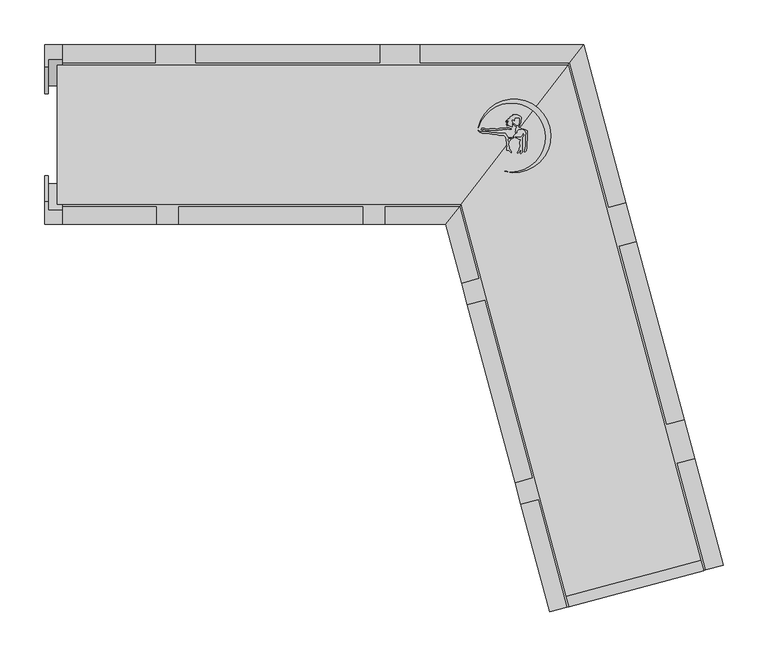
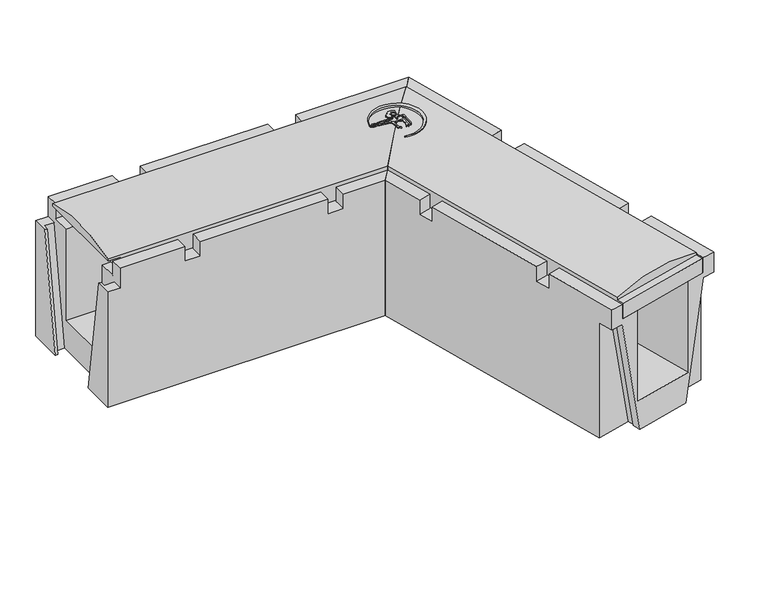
"""IFC4 building model written with IfcOpenShell, lengths in millimetres: cable carrier fitting geometry, Evotray type 1 horizontal bend : Evotray type 1 horizontal bend."""

from ifc_helpers import new_model, si_unit, point, frame, frame_2d, origin, place, context, project, spatial, polyline, circle_curve, ellipse_curve, trimmed, segment, composite_curve, outline, extrude, faceted_brep, source, transform, mapped, element, save
from ifc_brep_helpers import plane_surface, cylinder_surface, advanced_brep


def cable_carrier_fitting_8de855c7(model_context):
    return source(origin(), model_context, "Body", "SolidModel", [
        extrude(outline(composite_curve([segment(polyline([(29.5860143, 7.5339815), (31.0117053, 6.7108584), (30.302774, 6.3015567), (27.7378441, 6.3015567), (25.2783509, 3.8420634), (25.2783509, 2.2583954), (24.2208369, 1.9750354), (23.8894698, 3.2117144), (24.2116912, 4.414261), (24.2116912, 6.6410761), (25.6782318, 8.1076167), (25.2783509, 8.8002309), (24.2116912, 9.4160672), (23.3534193, 9.9115907), (22.3602957, 10.9047143), (22.3602957, 12.1547711), (23.1480899, 11.6999379), (24.2116912, 10.6363367), (25.2783509, 10.0205004), (27.5911155, 10.0205004), (28.2230142, 10.6523991), (28.2230142, 12.2608037), (28.6288712, 12.9637687), (28.8684412, 13.8578561), (28.8684412, 17.953291), (28.2230142, 18.598718), (24.2116912, 18.9496633), (23.463527, 18.5177106), (23.0316785, 17.769727), (22.8092851, 16.9397435), (22.5365687, 15.393092), (21.980547, 15.9491137), (21.4148911, 16.5147695), (20.4543562, 16.5147695), (19.9799168, 15.6930164), (19.9799168, 14.868111), (20.381964, 14.1717449), (21.1096586, 13.4440503), (20.7130193, 11.9637721), (20.3755193, 10.7042051), (20.6783268, 8.9868987), (19.8775337, 8.8456973), (18.1470884, 9.3093687), (16.9003791, 9.8907188), (16.1471219, 10.2419684), (14.5476734, 9.9599424), (15.0152318, 10.7697774), (16.6720528, 11.3728109)]), True, "CONTINUOUS"), segment(trimmed(circle_curve(frame_2d((16.1059252, 11.1008716)), 0.6280537), [point((16.6720528, 11.3728109))], [point((15.9503431, 11.7093497))], True, "CARTESIAN"), True, "CONTINUOUS"), segment(polyline([(15.9503431, 11.7093497), (14.003328, 11.7093497), (14.5615061, 12.2675278), (15.4122859, 12.5771863), (16.2307253, 12.875074)]), True, "CONTINUOUS"), segment(trimmed(circle_curve(frame_2d((15.4924004, 12.875074)), 0.7383249), [point((16.2307253, 12.875074))], [point((15.4924004, 13.6133989))], True, "CARTESIAN"), True, "CONTINUOUS"), segment(polyline([(15.4924004, 13.6133989), (13.7846528, 13.6133989), (13.3931312, 14.2915342), (15.2117233, 14.612201), (16.5080613, 15.0840295), (15.8873086, 15.7047821), (13.9240891, 15.7047821), (14.4766716, 16.2573646), (15.5065043, 16.8519388), (16.1812287, 17.5266631), (16.904046, 17.9439819), (17.879058, 18.5069053)]), True, "CONTINUOUS"), segment(trimmed(circle_curve(frame_2d((17.6680726, 18.8723428)), 0.4219708), [point((17.879058, 18.5069053))], [point((17.4570872, 19.2377802))], True, "CARTESIAN"), True, "CONTINUOUS"), segment(polyline([(17.4570872, 19.2377802), (18.0744838, 19.8551768), (19.3771538, 20.3293099), (20.3722104, 20.9038061), (21.503747, 21.1033266), (21.1499212, 22.0754549), (26.1499212, 22.0754549), (27.164095, 21.6025379), (28.28595, 21.3019378), (29.3003961, 20.716247), (30.4090725, 19.6075706), (30.4090725, 17.0415553), (29.9201554, 16.1947259), (29.9201554, 13.46269), (29.4311204, 12.4139512), (29.0243186, 11.7093497), (29.0243186, 9.8605854), (28.2230142, 9.3979521), (27.3897357, 9.2510226)]), True, "CONTINUOUS"), segment(trimmed(circle_curve(frame_2d((28.4426872, 8.9688851)), 1.0900956), [point((27.3897357, 9.2510226))], [point((28.1605497, 7.9159336))], True, "CARTESIAN"), True, "CONTINUOUS"), segment(polyline([(28.1605497, 7.9159336), (29.5860143, 7.5339815)]), True, "CONTINUOUS")], self_intersect=False)), frame((0.0, 0.0, 223.75), z_axis=(0.0, 0.0, 1.0), x_axis=(1.0, 0.0, 0.0)), (0.0, 0.0, 1.0), 22.5),
        extrude(outline(polyline([(34.1427235, 4.6789788), (32.2200795, 5.7890178), (33.4093196, 6.1076737), (34.784175, 5.6072673), (36.9103242, 4.3797345), (37.3219736, 2.8434379), (37.3219736, 0.0702487), (36.9035927, -2.3025073), (36.5774556, -11.6418533), (36.5774556, -14.4967502), (36.0178076, -17.6706715), (34.8587835, -18.8296956), (33.9612949, -18.8296956), (34.6361691, -16.975494), (34.9451247, -15.2233198), (35.459582, -12.3056877), (35.459582, -1.066223), (35.9012166, 1.4384114), (35.3587397, 3.4629626), (34.1427235, 4.6789788)])), frame((0.0, 0.0, 223.75), z_axis=(0.0, 0.0, 1.0), x_axis=(1.0, 0.0, 0.0)), (0.0, 0.0, 1.0), 22.5),
        extrude(outline(composite_curve([segment(polyline([(26.7144746, -2.929042), (28.696676, -2.929042), (30.1649403, -2.6701473), (31.4702224, -1.3648653), (32.6503312, 1.1658863), (33.1312832, -0.1555184), (32.5085755, -1.4909195), (31.837968, -2.929042), (31.837968, -8.8872378), (31.4095889, -11.3166965), (31.4095889, -19.7978385), (29.9609302, -21.2464971), (29.388193, -20.6737599), (30.066913, -18.9313898), (30.3250583, -17.4673747)]), True, "CONTINUOUS"), segment(trimmed(circle_curve(frame_2d((29.9104103, -17.4673747)), 0.414648), [point((30.3250583, -17.4673747))], [point((29.4957623, -17.4673747))], True, "CARTESIAN"), True, "CONTINUOUS"), segment(polyline([(29.4957623, -17.4673747), (28.7300735, -18.2330635), (27.463227, -19.7428323), (26.8077179, -20.3983414), (26.0153967, -20.0288759), (28.1796166, -16.820288), (28.4855263, -15.0853881), (29.3275842, -13.2795892), (29.5847917, -11.8208929), (28.7962829, -10.4551557), (28.7962829, -7.6886085), (30.1194314, -5.8190518)]), True, "CONTINUOUS"), segment(trimmed(circle_curve(frame_2d((29.7823264, -5.5804712)), 0.4129897), [point((30.1194314, -5.8190518))], [point((29.5437458, -5.2433662))], True, "CARTESIAN"), True, "CONTINUOUS"), segment(polyline([(29.5437458, -5.2433662), (27.5399308, -4.8900395), (26.0960343, -4.2167395), (24.2760336, -3.3680593), (24.2760336, -2.499079), (26.7144746, -2.929042)]), True, "CONTINUOUS")], self_intersect=False)), frame((0.0, 0.0, 223.75), z_axis=(0.0, 0.0, 1.0), x_axis=(1.0, 0.0, 0.0)), (0.0, 0.0, 1.0), 22.5),
        extrude(outline(composite_curve([segment(polyline([(-15.6971213, 3.8801527), (-13.9614475, 3.0707947), (-9.7749736, 3.0707947), (-8.7042525, 3.3576935), (-7.3777149, 3.3576935), (-5.656606, 3.0707947), (-3.650284, 2.5332023), (-2.4970959, 2.2242065), (3.1948108, 2.2242065), (5.8113067, 1.7880518), (7.1388694, 1.4323324), (12.7531116, 1.4323324)]), True, "CONTINUOUS"), segment(trimmed(circle_curve(frame_2d((21.6066778, 4.337939)), 9.3181642), [point((12.7531116, 1.4323324))], [point((16.1073794, -3.184421))], True, "CARTESIAN"), True, "CONTINUOUS"), segment(polyline([(16.1073794, -3.184421), (19.1591642, -3.184421), (21.1937428, -3.0064185), (22.3327467, -2.4752922), (22.0752268, -3.4363696), (21.1311325, -3.9814427), (20.1724456, -4.3303762), (16.9377406, -4.2174178), (15.749046, -4.6500673), (15.3400516, -5.5271586), (15.4151322, -6.3853337), (15.8940164, -7.2147854), (16.6146219, -7.9353909), (16.6146219, -9.6916034), (16.2493216, -10.6952577), (16.3935882, -12.3442325), (16.8986805, -14.2292627), (17.0467997, -15.9222719), (19.4181347, -18.6501808), (19.2094578, -19.8336466), (16.6146219, -17.2388107), (15.6517903, -17.4968007), (14.2486141, -17.2493828), (14.5241745, -16.4922869), (14.5241745, -14.2182314), (14.6997783, -13.2223327), (14.5241745, -11.2151718), (14.148512, -10.1830477), (14.148512, -8.3578648), (13.7021763, -7.4006948), (13.7021763, -5.0229453), (13.4537361, -4.0957537), (13.0017658, -3.3129181), (12.553054, -2.5357266), (11.9386116, -1.9212842), (11.5047603, -0.9908871), (7.9038221, -0.8651396), (5.5596701, -0.4743831), (3.5270768, 0.0702487), (0.1854572, 0.4214671), (-1.8941558, 0.4214671), (-3.2363904, 0.7811177), (-4.7599854, 1.1893638), (-6.1032387, 1.8157331), (-7.0976275, 1.8157331), (-9.7490678, 1.8157331), (-10.861312, 1.5177082), (-12.7245939, 1.713547), (-14.2136688, 1.9617671), (-15.8869763, 2.7420433), (-16.8629027, 3.7179696), (-17.5019858, 4.3570527), (-17.5019858, 5.1439324), (-15.6971213, 3.8801527)]), True, "CONTINUOUS")], self_intersect=False)), frame((0.0, 0.0, 223.75), z_axis=(0.0, 0.0, 1.0), x_axis=(1.0, 0.0, 0.0)), (0.0, 0.0, 1.0), 22.5),
        extrude(outline(composite_curve([segment(polyline([(-13.1948887, 5.4241248), (-12.1715744, 4.833314), (-13.8992348, 5.3529849), (-14.2293814, 6.2705486), (-13.3910569, 7.108873), (-10.5182384, 7.108873), (-9.5338014, 6.7111347), (-8.4433126, 6.2705486), (-7.6451191, 5.8097113), (-6.3848889, 5.8097113), (-5.5638639, 6.1051225), (-4.6786116, 6.6162232), (1.7350934, 6.6162232), (2.5906679, 6.2705486), (3.66107, 6.2705486), (4.6217902, 6.6162232), (5.8009468, 6.6162232), (6.5192859, 7.0309564), (11.9319411, 7.0309564), (12.6922218, 7.3045113), (13.9343798, 7.3045113), (14.5101483, 7.8802798), (16.4677118, 7.8802798), (17.7557129, 7.3598936), (18.7676293, 6.7756634), (19.5720704, 6.4506481)]), True, "CONTINUOUS"), segment(trimmed(circle_curve(frame_2d((19.164738, 6.2860752)), 0.4393221), [point((19.5720704, 6.4506481))], [point((19.000165, 5.8787428))], False, "CARTESIAN"), True, "CONTINUOUS"), segment(polyline([(19.000165, 5.8787428), (17.9844364, 6.2891238), (16.6727786, 6.2891238), (15.4023486, 6.5131349), (14.5903242, 6.2209622), (13.4473503, 5.8097113), (10.1031523, 5.8097113), (9.312079, 5.3529849), (5.7447587, 5.3529849), (4.8618964, 4.8432641), (-5.1381036, 4.8432641), (-7.7487677, 4.6148606), (-11.4372954, 6.1051225), (-13.5880629, 6.1051225), (-13.1948887, 5.4241248)]), True, "CONTINUOUS")], self_intersect=False)), frame((0.0, 0.0, 223.75), z_axis=(0.0, 0.0, 1.0), x_axis=(1.0, 0.0, 0.0)), (0.0, 0.0, 1.0), 22.5),
        extrude(outline(composite_curve([segment(trimmed(circle_curve(frame_2d((19.3853713, -3.2457098)), 38.3616107), [point((11.9775346, -40.8852785))], [point((-17.326164, 7.8842657))], True, "CARTESIAN"), True, "CONTINUOUS"), segment(trimmed(circle_curve(frame_2d((22.5147721, -1.3653761)), 40.900563), [point((-17.326164, 7.8842657))], [point((11.9775346, -40.8852785))], False, "CARTESIAN"), True, "CONTINUOUS")], self_intersect=False)), frame((0.0, 0.0, 223.75), z_axis=(0.0, 0.0, 1.0), x_axis=(1.0, 0.0, 0.0)), (0.0, 0.0, 1.0), 22.5),
        advanced_brep(
        [(83.8395929, -525.4958763, 205.0), (-36.2005404, -77.5, 205.0), (82.7351428, 77.5, 205.0), (233.558096, -485.3789243, 205.0), (233.558096, -485.3789243, 230.0), (83.8395929, -525.4958763, 230.0), (82.7351428, 77.5, 234.0), (230.4522674, -473.7878144, 234.0), (230.4522674, -473.7878144, 230.0), (-36.2005404, -77.5, 234.0), (80.7337644, -513.9047664, 230.0), (80.7337644, -513.9047664, 234.0)],
        [
            (0, 1),
            (1, 2),
            (2, 3),
            (3, 0),
            (3, 4),
            (4, 5),
            (5, 0),
            (2, 6),
            (6, 7),
            (7, 8),
            (8, 4),
            (1, 9),
            (9, 6, ellipse_curve(frame((23.2673012, 0.0, -13.3274515), z_axis=(-0.7933533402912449, 0.608761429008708, 0.0), x_axis=(-0.6087614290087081, -0.7933533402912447, 0.0)), 326.6961604, 259.1854901)),
            (5, 10),
            (10, 11),
            (11, 9),
            (8, 10),
            (7, 11, circle_curve(frame((155.5930159, -493.8462904, -13.3274515), z_axis=(0.2588190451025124, -0.9659258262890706, 0.0), x_axis=(-0.9659258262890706, -0.2588190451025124, 0.0)), 259.1854901)),
        ],
        [
            plane_surface(frame((235.9729105, -484.7318767, 205.0), z_axis=(0.0, 0.0, -1.0000000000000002), x_axis=(-0.9659258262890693, -0.25881904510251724, 0.0))),
            plane_surface(frame((83.8395929, -525.4958763, 246.0), z_axis=(0.25881904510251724, -0.9659258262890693, 0.0), x_axis=(0.0, 0.0, -1.0))),
            plane_surface(frame((233.558096, -485.3789243, 246.0), z_axis=(0.9659258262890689, 0.25881904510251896, 0.0), x_axis=(0.0, 0.0, -1.0))),
            plane_surface(frame((82.7351428, 77.5, 246.0), z_axis=(-0.7933533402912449, 0.608761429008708, 0.0), x_axis=(0.0, 0.0, -1.0))),
            plane_surface(frame((-36.2005404, -77.5, 246.0), z_axis=(-0.9659258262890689, -0.25881904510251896, 0.0), x_axis=(0.0, 0.0, -1.0))),
            plane_surface(frame((80.6371718, -513.9306483, 230.0), z_axis=(0.0, 0.0, 1.0), x_axis=(0.9659258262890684, 0.25881904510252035, 0.0))),
            plane_surface(frame((230.4522674, -473.7878144, 246.0), z_axis=(0.25881904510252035, -0.9659258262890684, 0.0), x_axis=(0.0, 0.0, -1.0))),
            cylinder_surface(frame((23.2673012, 0.0, -13.3274515), z_axis=(0.2588190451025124, -0.9659258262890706, 0.0), x_axis=(-0.9659258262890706, -0.2588190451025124, 0.0)), 259.1854901),
        ],
        [
            (0, [[1, 2, 3, 4]]),
            (1, [[-4, 5, 6, 7]]),
            (2, [[-3, 8, 9, 10, 11, -5]]),
            (3, [[-2, 12, 13, -8]]),
            (4, [[-1, -7, 14, 15, 16, -12]]),
            (5, [[17, -14, -6, -11]]),
            (6, [[-17, -10, 18, -15]]),
            (7, [[-9, -13, -16, -18]]),
        ],
    ),
        advanced_brep(
        [(82.7351428, 77.5, 205.0), (-36.2005404, -77.5, 205.0), (-466.0, -77.5, 205.0), (-466.0, 77.5, 205.0), (-36.2005404, -77.5, 230.0), (-36.2005404, -77.5, 234.0), (-486.0, -77.5, 234.0), (-486.0, -77.5, 230.0), (-466.0, -77.5, 230.0), (82.7351428, 77.5, 230.0), (82.7351428, 77.5, 234.0), (-466.0, 77.5, 230.0), (-486.0, 77.5, 230.0), (-486.0, 77.5, 234.0)],
        [
            (0, 1),
            (1, 2),
            (2, 3),
            (3, 0),
            (1, 4),
            (4, 5),
            (5, 6),
            (6, 7),
            (7, 8),
            (8, 2),
            (0, 9),
            (9, 10),
            (10, 5, ellipse_curve(frame((23.2673012, 0.0, -13.3274515), z_axis=(0.7933533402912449, -0.6087614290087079, 0.0), x_axis=(0.6087614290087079, 0.793353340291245, 0.0)), 326.6961604, 259.1854901)),
            (3, 11),
            (11, 12),
            (12, 13),
            (13, 10),
            (12, 7),
            (6, 13, circle_curve(frame((-486.0, 0.0, -13.3274515), z_axis=(-1.0, 0.0, 0.0), x_axis=(0.0, -1.0, 0.0)), 259.1854901)),
            (11, 8),
        ],
        [
            plane_surface(frame((-77.5, -77.5, 205.0), z_axis=(0.0, 0.0, -1.0), x_axis=(-1.0, 0.0, 0.0))),
            plane_surface(frame((-486.0, -77.5, 246.0), z_axis=(0.0, -1.0, 0.0), x_axis=(0.0, 0.0, -1.0))),
            plane_surface(frame((-36.2005404, -77.5, 246.0), z_axis=(0.7933533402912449, -0.6087614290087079, 0.0), x_axis=(0.0, 0.0, -1.0))),
            plane_surface(frame((82.7351428, 77.5, 246.0), z_axis=(0.0, 1.0, 0.0), x_axis=(0.0, 0.0, -1.0))),
            plane_surface(frame((-486.0, 77.5, 246.0), z_axis=(-1.0, 0.0, 0.0), x_axis=(0.0, 0.0, -1.0))),
            plane_surface(frame((-486.0, 77.5, 230.0), z_axis=(0.0, 0.0, -1.0), x_axis=(-1.0, 0.0, 0.0))),
            plane_surface(frame((-466.0, -77.5, 230.0), z_axis=(-1.0, 0.0, 0.0), x_axis=(0.0, 0.0, -1.0))),
            cylinder_surface(frame((-486.0, 0.0, -13.3274515), z_axis=(1.0, 0.0, 0.0), x_axis=(0.0, -1.0, 0.0)), 259.1854901),
        ],
        [
            (0, [[1, 2, 3, 4]]),
            (1, [[5, 6, 7, 8, 9, 10, -2]]),
            (2, [[-1, 11, 12, 13, -6, -5]]),
            (3, [[-11, -4, 14, 15, 16, 17, -12]]),
            (4, [[18, -8, 19, -16]]),
            (5, [[20, -9, -18, -15]]),
            (6, [[-20, -14, -3, -10]]),
            (7, [[-7, -13, -17, -19]]),
        ],
    ),
        faceted_brep([(-38.1188578, -80.0, 230.0), (-53.4653976, -100.0, 230.0), (-35.9861563, -165.2334166, 230.0), (-16.6676398, -160.0570357, 230.0), (100.0, 100.0, 230.0), (84.6534602, 80.0, 230.0), (127.7865497, -80.9748813, 230.0), (147.1050662, -75.7985004, 230.0), (235.9729105, -484.7318767, 230.0), (255.2914271, -479.5554958, 230.0), (223.4566845, -360.7466191, 230.0), (204.138168, -365.923, 230.0), (62.1062618, -531.3193048, 230.0), (81.4247783, -526.1429239, 230.0), (49.3312167, -406.3681214, 230.0), (30.0127002, -411.5445023, 230.0), (211.8098275, -317.279957, 230.0), (158.7519232, -119.2651626, 230.0), (139.4334067, -124.4415435, 230.0), (192.491311, -322.4563379, 230.0), (-29.5156802, -189.3815623, 230.0), (23.5422241, -387.3963567, 230.0), (42.8607406, -382.2199758, 230.0), (-10.1971636, -184.2051814, 230.0), (-53.4653976, -100.0, 0.0), (100.0, 100.0, 0.0), (248.8209509, -455.4073501, 0.0), (193.7631788, -470.1600357, 0.0), (196.8690074, -481.7511456, 0.0), (199.1872294, -481.1299799, 0.0), (202.5518769, -493.6870156, 0.0), (114.8458119, -517.1877849, 0.0), (111.4811643, -504.6307492, 0.0), (113.7993863, -504.0095835, 0.0), (110.6935578, -492.4184736, 0.0), (55.6357857, -507.1711591, 0.0), (147.1050662, -75.7985004, 205.0), (158.7519232, -119.2651626, 205.0), (211.8098275, -317.279957, 205.0), (223.4566845, -360.7466191, 205.0), (255.2914271, -479.5554958, 196.0), (248.8209509, -455.4073501, 196.0), (-38.1188578, -80.0, 205.0), (-15.0990482, -50.0, 205.0), (-15.0990482, -50.0, 50.0), (61.6336506, 50.0, 50.0), (61.6336506, 50.0, 205.0), (84.6534602, 80.0, 205.0), (55.6357857, -507.1711591, 196.0), (62.1062618, -531.3193048, 196.0), (30.0127002, -411.5445023, 205.0), (23.5422241, -387.3963567, 205.0), (-29.5156802, -189.3815623, 205.0), (-35.9861563, -165.2334166, 205.0), (81.4247783, -526.1429239, 196.0), (235.9729105, -484.7318767, 196.0), (235.9729105, -484.7318767, 205.0), (206.9951357, -492.496448, 205.0), (206.9951357, -492.496448, 50.0), (110.4025531, -518.3783525, 50.0), (110.4025531, -518.3783525, 205.0), (81.4247783, -526.1429239, 205.0), (78.0601307, -513.5858882, 196.0), (77.2725242, -501.3736125, 196.0), (80.3783527, -512.9647224, 196.0), (232.6082629, -472.1748409, 196.0), (230.290041, -472.7960066, 196.0), (227.1842124, -461.2048967, 196.0), (-16.6676398, -160.0570357, 205.0), (-10.1971636, -184.2051814, 205.0), (42.8607406, -382.2199758, 205.0), (49.3312167, -406.3681214, 205.0), (204.138168, -365.923, 205.0), (192.491311, -322.4563379, 205.0), (139.4334067, -124.4415435, 205.0), (127.7865497, -80.9748813, 205.0)], [[[0, 1, 2, 3]], [[4, 5, 6, 7]], [[8, 9, 10, 11]], [[12, 13, 14, 15]], [[16, 17, 18, 19]], [[20, 21, 22, 23]], [[24, 25, 26, 27, 28, 29, 30, 31, 32, 33, 34, 35]], [[25, 4, 7, 36, 37, 17, 16, 38, 39, 10, 9, 40, 41, 26]], [[25, 24, 1, 0, 42, 43, 44, 45, 46, 47, 5, 4]], [[1, 24, 35, 48, 49, 12, 15, 50, 51, 21, 20, 52, 53, 2]], [[12, 49, 54, 31, 30, 55, 40, 9, 8, 56, 57, 58, 59, 60, 61, 13]], [[62, 54, 49, 48, 63, 64]], [[54, 62, 32, 31]], [[55, 65, 66, 67, 41, 40]], [[65, 55, 30, 29]], [[64, 33, 32, 62]], [[64, 63, 34, 33]], [[63, 48, 35, 34]], [[28, 66, 65, 29]], [[67, 66, 28, 27]], [[41, 67, 27, 26]], [[43, 42, 68, 53, 52, 69, 70, 51, 50, 71, 61, 60]], [[47, 46, 57, 56, 72, 39, 38, 73, 74, 37, 36, 75]], [[19, 18, 74, 73]], [[5, 47, 75, 6]], [[56, 8, 11, 72]], [[23, 22, 70, 69]], [[42, 0, 3, 68]], [[13, 61, 71, 14]], [[58, 45, 44, 59]], [[45, 58, 57, 46]], [[59, 44, 43, 60]], [[51, 70, 22, 21]], [[71, 50, 15, 14]], [[75, 36, 7, 6]], [[37, 74, 18, 17]], [[73, 38, 16, 19]], [[39, 72, 11, 10]], [[53, 68, 3, 2]], [[69, 52, 20, 23]]]),
        faceted_brep([(-53.4653976, -100.0, 230.0), (-38.1188578, -80.0, 230.0), (-121.0, -80.0, 230.0), (-121.0, -100.0, 230.0), (84.6534602, 80.0, 230.0), (100.0, 100.0, 230.0), (-82.0, 100.0, 230.0), (-82.0, 80.0, 230.0), (-127.0, 100.0, 230.0), (-332.0, 100.0, 230.0), (-332.0, 80.0, 230.0), (-127.0, 80.0, 230.0), (-376.0, -100.0, 230.0), (-376.0, -80.0, 230.0), (-480.0, -80.0, 230.0), (-480.0, -100.0, 230.0), (-377.0, 80.0, 230.0), (-377.0, 100.0, 230.0), (-480.0, 100.0, 230.0), (-480.0, 80.0, 230.0), (-351.0, -100.0, 230.0), (-146.0, -100.0, 230.0), (-146.0, -80.0, 230.0), (-351.0, -80.0, 230.0), (-500.0, 100.0, 0.0), (100.0, 100.0, 0.0), (-53.4653976, -100.0, 0.0), (-500.0, -100.0, 0.0), (-500.0, -45.5, 0.0), (-496.0, -45.5, 0.0), (-496.0, -54.6, 0.0), (-480.0, -54.6, 0.0), (-480.0, 54.6, 0.0), (-496.0, 54.6, 0.0), (-496.0, 45.4, 0.0), (-500.0, 45.4, 0.0), (-500.0, 100.0, 196.0), (-500.0, 74.8852174, 196.0), (-500.0, -100.0, 196.0), (-500.0, -74.9, 196.0), (-121.0, -100.0, 205.0), (-146.0, -100.0, 205.0), (-351.0, -100.0, 205.0), (-376.0, -100.0, 205.0), (-480.0, -100.0, 196.0), (84.6534602, 80.0, 205.0), (61.6336506, 50.0, 205.0), (61.6336506, 50.0, 50.0), (-15.0990482, -50.0, 50.0), (-15.0990482, -50.0, 205.0), (-38.1188578, -80.0, 205.0), (-480.0, 100.0, 196.0), (-377.0, 100.0, 205.0), (-332.0, 100.0, 205.0), (-127.0, 100.0, 205.0), (-82.0, 100.0, 205.0), (-82.0, 80.0, 205.0), (-127.0, 80.0, 205.0), (-332.0, 80.0, 205.0), (-377.0, 80.0, 205.0), (-480.0, 80.0, 205.0), (-480.0, 77.5, 205.0), (-480.0, 50.0, 205.0), (-466.0, 50.0, 205.0), (-466.0, -50.0, 205.0), (-480.0, -50.0, 205.0), (-480.0, -77.5, 205.0), (-480.0, -80.0, 205.0), (-376.0, -80.0, 205.0), (-351.0, -80.0, 205.0), (-146.0, -80.0, 205.0), (-121.0, -80.0, 205.0), (-480.0, 50.0, 50.0), (-480.0, -50.0, 50.0), (-480.0, -84.0852174, 196.0), (-496.0, -84.0852174, 196.0), (-496.0, -74.9, 196.0), (-496.0, 74.8852174, 196.0), (-496.0, 84.0, 196.0), (-480.0, 84.0, 196.0)], [[[0, 1, 2, 3]], [[4, 5, 6, 7]], [[8, 9, 10, 11]], [[12, 13, 14, 15]], [[16, 17, 18, 19]], [[20, 21, 22, 23]], [[24, 25, 26, 27, 28, 29, 30, 31, 32, 33, 34, 35]], [[36, 24, 35, 37]], [[27, 38, 39, 28]], [[27, 26, 0, 3, 40, 41, 21, 20, 42, 43, 12, 15, 44, 38]], [[26, 25, 5, 4, 45, 46, 47, 48, 49, 50, 1, 0]], [[25, 24, 36, 51, 18, 17, 52, 53, 9, 8, 54, 55, 6, 5]], [[46, 45, 56, 55, 54, 57, 58, 53, 52, 59, 60, 61, 62, 63]], [[50, 49, 64, 65, 66, 67, 68, 43, 42, 69, 70, 41, 40, 71]], [[23, 22, 70, 69]], [[1, 50, 71, 2]], [[13, 68, 67, 14]], [[11, 10, 58, 57]], [[45, 4, 7, 56]], [[59, 16, 19, 60]], [[48, 47, 72, 73]], [[47, 46, 63, 62, 72]], [[49, 48, 73, 65, 64]], [[43, 68, 13, 12]], [[69, 42, 20, 23]], [[59, 52, 17, 16]], [[53, 58, 10, 9]], [[57, 54, 8, 11]], [[55, 56, 7, 6]], [[38, 44, 74, 75, 76, 39]], [[51, 36, 37, 77, 78, 79]], [[44, 15, 14, 67, 66, 65, 73, 72, 62, 61, 60, 19, 18, 51, 79, 32, 31, 74]], [[35, 34, 77, 37]], [[29, 28, 39, 76]], [[32, 79, 78, 33]], [[33, 78, 77, 34]], [[75, 30, 29, 76]], [[74, 31, 30, 75]], [[41, 70, 22, 21]], [[71, 40, 3, 2]]]),
    ])


if __name__ == "__main__":
    model = new_model("IFC4")
    model_context = context("Model", 3, world=origin())
    ifc_project = project(units=[si_unit("LENGTHUNIT", "METRE", prefix="MILLI")], contexts=[model_context])
    site = spatial("IfcSite", under=ifc_project)
    building = spatial("IfcBuilding", under=site)
    placement = place(None, origin())
    cable_carrier_fitting_shape = cable_carrier_fitting_8de855c7(model_context)
    element("IfcCableCarrierFitting", 1, ObjectType="Evotray type 1 horizontal bend : Evotray type 1 horizontal bend", at=placement, inside=building, context=model_context, shape_type="MappedRepresentation", body=[
        mapped(cable_carrier_fitting_shape, transform((0.0, 0.0, 0.0), x_axis=(1.0, 0.0, 0.0), y_axis=(0.0, 1.0, 0.0), z_axis=(0.0, 0.0, 1.0))),
    ])
    save(model, "model.ifc")
